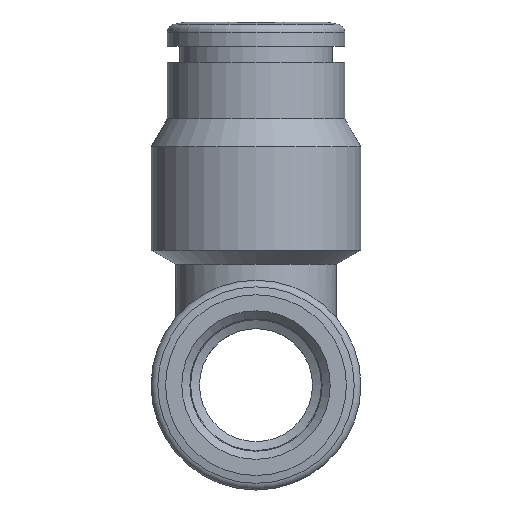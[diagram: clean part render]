
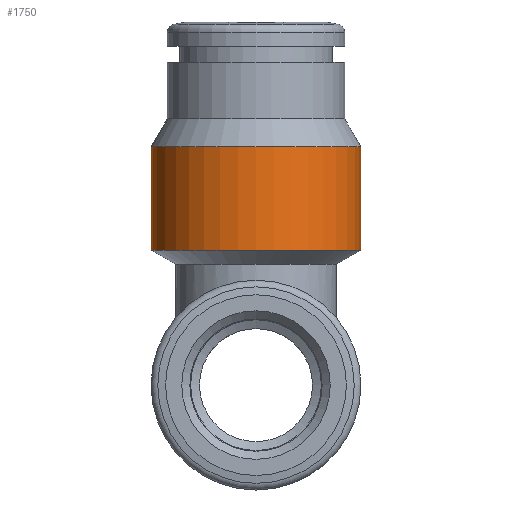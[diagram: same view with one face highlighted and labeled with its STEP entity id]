
A CAD part, left-side view. The second image highlights one B-rep face of the part: STEP entity #1750.
In plain terms, the highlighted cylindrical face has radius 6.5 mm (diameter 13 mm), a full revolution.
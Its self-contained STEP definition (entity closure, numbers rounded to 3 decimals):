
#1750=ADVANCED_FACE('', (#1760,#1770), #1780, .T.);
#6630=AXIS2_PLACEMENT_3D('Ax2Pl3d', #6640, #6650, #6660);
#6710=AXIS2_PLACEMENT_3D('Ax2Pl3d', #6720, #6730, #6740);
#6750=AXIS2_PLACEMENT_3D('Ax2Pl3d', #6760, #6770, #6780);
#6640=CARTESIAN_POINT('HicPkt', (23.557,4.499,
16.513));
#16830=CARTESIAN_POINT('', (23.557,10.999,16.513));
#6720=CARTESIAN_POINT('HicPkt', (23.557,4.499,
16.513));
#6760=CARTESIAN_POINT('HicPkt', (23.557,4.499,
22.915));
#16850=CARTESIAN_POINT('', (17.057,4.499,22.915));
#17590=CIRCLE('Circle', #6630, 6.5);
#17610=CIRCLE('Circle', #6750, 6.5);
#1780=CYLINDRICAL_SURFACE('Zyl', #6710, 6.5);
#6650=DIRECTION('Axis', (0.,0.,1.));
#6660=DIRECTION('RefDirection', (1.,0.,-0.));
#6730=DIRECTION('Axis', (0.,0.,1.));
#6740=DIRECTION('RefDirection', (1.,0.,-0.));
#6770=DIRECTION('Axis', (0.,0.,-1.));
#6780=DIRECTION('RefDirection', (-1.,-0.,0.));
#21230=EDGE_CURVE('', #21240, #21240, #17590, .T.);
#21270=EDGE_CURVE('', #21280, #21280, #17610, .T.);
#23570=EDGE_LOOP('Edge_loop', (#23580));
#23590=EDGE_LOOP('Edge_loop', (#23600));
#1770=FACE_BOUND('', #23590, .T.);
#1760=FACE_OUTER_BOUND('Face_outer_bound', #23570, .T.);
#23580=ORIENTED_EDGE('', *, *, #21230, .T.);
#23600=ORIENTED_EDGE('', *, *, #21270, .T.);
#21240=VERTEX_POINT('', #16830);
#21280=VERTEX_POINT('', #16850);
